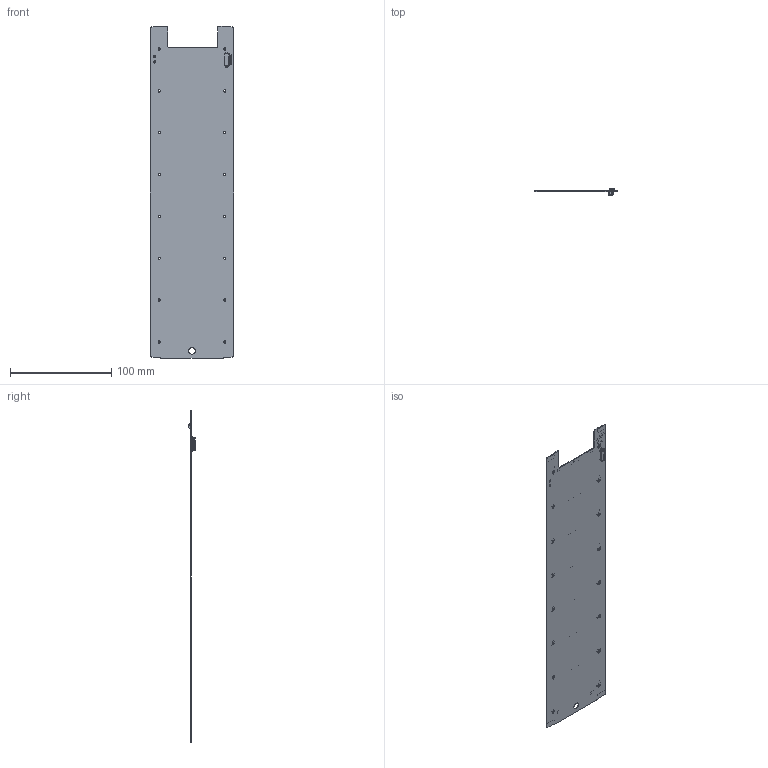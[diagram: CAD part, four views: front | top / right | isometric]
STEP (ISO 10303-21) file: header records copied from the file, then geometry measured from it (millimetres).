
FILE_DESCRIPTION (( 'STEP AP203' ), '1' );
FILE_NAME ('710-00771-C CSK 3U Fixed Front Solar Panel 031.STEP', '2024-06-11T21:52:46', ( '' ), ( '' ), 'SwSTEP 2.0', 'SolidWorks 2020', '' );
FILE_SCHEMA (( 'CONFIG_CONTROL_DESIGN' ));
Length unit declared in the file: inch
Products named in the file (5): SpectroLab Cell 043575_Sticker; 710-00771-C CSK 3U Fixed Front Solar Panel 031; 705-00801 CSK 3U Fixed Side Solar Panel 031; Chip, SO-8; Connector, DF13-8P-1.25H
Assembly tree (10 placements, depth 2):
  710-00771-C CSK 3U Fixed Front Solar Panel 031
    705-00801 CSK 3U Fixed Side Solar Panel 031
    SpectroLab Cell 043575_Sticker  x7
    Connector, DF13-8P-1.25H
    Chip, SO-8
Bounding box: 82.55 x 6.14 x 327.51 mm (x, y, z)
Volume: 24471.6 mm3; surface area: 90941.7 mm2
Topology: 10 solids, 10 shells, 971 faces, 2509 edges, 1640 vertices
Faces by surface type: plane 779, cylinder 188, cone 4
Entity records: 28722 total; most frequent: CARTESIAN_POINT 4905, ORIENTED_EDGE 4802, DIRECTION 4659, EDGE_CURVE 2401, VECTOR 2015, LINE 2015, VERTEX_POINT 1568, AXIS2_PLACEMENT_3D 1322
